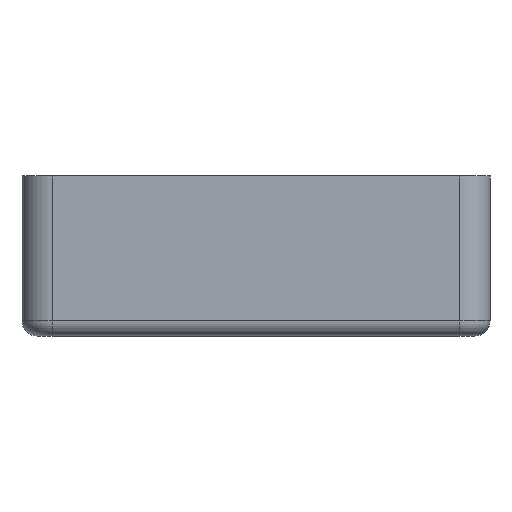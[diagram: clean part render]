
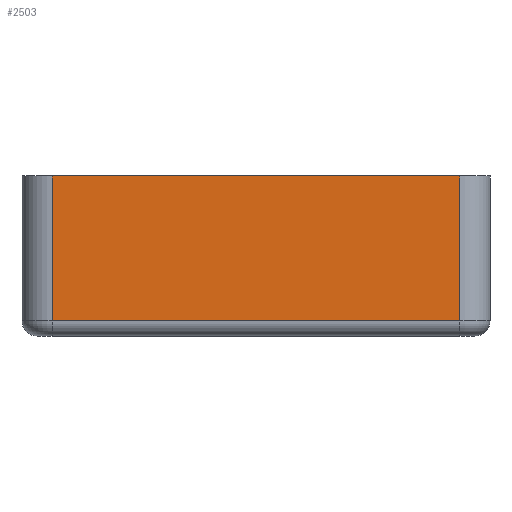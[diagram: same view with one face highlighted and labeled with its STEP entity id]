
A CAD part, left-side view. The second image highlights one B-rep face of the part: STEP entity #2503.
In plain terms, the highlighted planar face has unit normal (-1, 0, 0).
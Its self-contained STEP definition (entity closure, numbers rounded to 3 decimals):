
#43 = DIRECTION ( 'NONE',  ( 0., 0., -1. ) ) ;
#148 = EDGE_CURVE ( 'NONE', #2795, #2726, #399, .T. ) ;
#175 = EDGE_CURVE ( 'NONE', #2795, #216, #1942, .T. ) ;
#216 = VERTEX_POINT ( 'NONE', #2183 ) ;
#304 = VECTOR ( 'NONE', #2893, 1000. ) ;
#356 = LINE ( 'NONE', #631, #1665 ) ;
#399 = LINE ( 'NONE', #2677, #304 ) ;
#419 = CARTESIAN_POINT ( 'NONE',  ( -38.212, 20.25, 14.3 ) ) ;
#498 = DIRECTION ( 'NONE',  ( 0., 0., -1. ) ) ;
#566 = VERTEX_POINT ( 'NONE', #2197 ) ;
#631 = CARTESIAN_POINT ( 'NONE',  ( -38.212, -20.25, -0.1 ) ) ;
#680 = CARTESIAN_POINT ( 'NONE',  ( -38.212, -20.25, 14.3 ) ) ;
#691 = VECTOR ( 'NONE', #43, 1000. ) ;
#717 = EDGE_CURVE ( 'NONE', #216, #566, #2523, .T. ) ;
#828 = EDGE_LOOP ( 'NONE', ( #2531, #2460, #1354, #1108 ) ) ;
#872 = CARTESIAN_POINT ( 'NONE',  ( -38.212, 20.25, -0.1 ) ) ;
#885 = VECTOR ( 'NONE', #1528, 1000. ) ;
#1009 = FACE_OUTER_BOUND ( 'NONE', #828, .T. ) ;
#1108 = ORIENTED_EDGE ( 'NONE', *, *, #175, .F. ) ;
#1232 = CARTESIAN_POINT ( 'NONE',  ( -38.212, 20.25, 14.3 ) ) ;
#1354 = ORIENTED_EDGE ( 'NONE', *, *, #717, .F. ) ;
#1488 = DIRECTION ( 'NONE',  ( 0., -1., 0. ) ) ;
#1528 = DIRECTION ( 'NONE',  ( 0., -1., 0. ) ) ;
#1665 = VECTOR ( 'NONE', #1488, 1000. ) ;
#1942 = LINE ( 'NONE', #2846, #885 ) ;
#2183 = CARTESIAN_POINT ( 'NONE',  ( -38.212, -20.25, 14.3 ) ) ;
#2197 = CARTESIAN_POINT ( 'NONE',  ( -38.212, -20.25, -0.1 ) ) ;
#2336 = DIRECTION ( 'NONE',  ( 1., 0., 0. ) ) ;
#2460 = ORIENTED_EDGE ( 'NONE', *, *, #2692, .T. ) ;
#2503 = ADVANCED_FACE ( 'NONE', ( #1009 ), #2535, .F. ) ;
#2523 = LINE ( 'NONE', #680, #691 ) ;
#2531 = ORIENTED_EDGE ( 'NONE', *, *, #148, .T. ) ;
#2535 = PLANE ( 'NONE',  #2738 ) ;
#2677 = CARTESIAN_POINT ( 'NONE',  ( -38.212, 20.25, 14.3 ) ) ;
#2692 = EDGE_CURVE ( 'NONE', #2726, #566, #356, .T. ) ;
#2726 = VERTEX_POINT ( 'NONE', #872 ) ;
#2738 = AXIS2_PLACEMENT_3D ( 'NONE', #1232, #2336, #498 ) ;
#2795 = VERTEX_POINT ( 'NONE', #419 ) ;
#2846 = CARTESIAN_POINT ( 'NONE',  ( -38.212, 20.25, 14.3 ) ) ;
#2893 = DIRECTION ( 'NONE',  ( 0., 0., -1. ) ) ;
